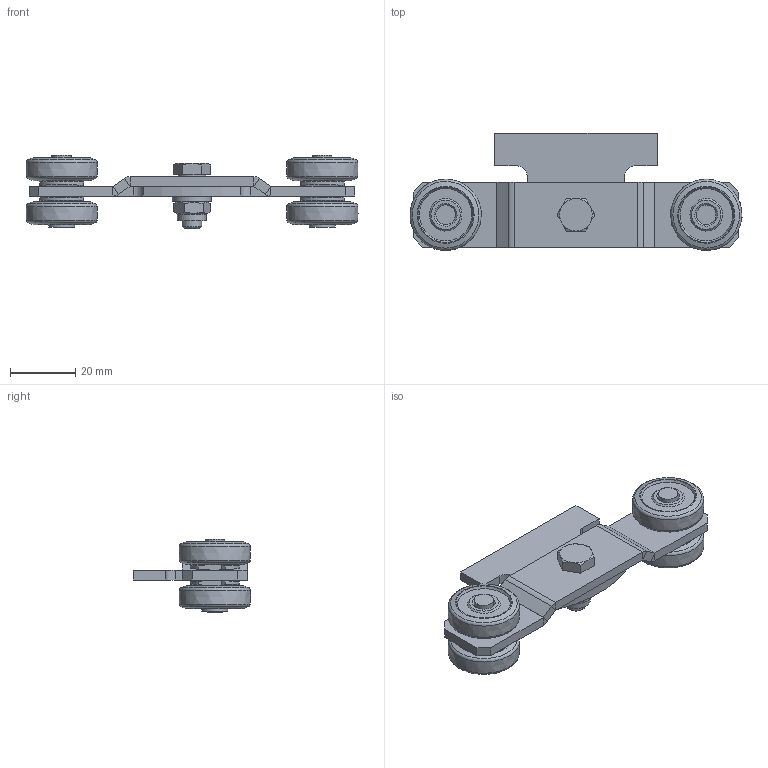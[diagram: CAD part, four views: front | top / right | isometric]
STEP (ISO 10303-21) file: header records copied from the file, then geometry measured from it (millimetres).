
FILE_DESCRIPTION(/* description */ ('Brennteil'),/* implementation_level */ '2;1');
FILE_NAME(/* name */ 'Q:\sge-ma\Produktmanagement-STB\STB\Workspace\TraceParts\Doppelrolle mit Anschweißpendel\010336860.stp',/* time_stamp */ '2018-02-27T11:38:03+01:00',/* author */ ('avschreier'),/* organization */ (''),/* preprocessor_version */ 'ST-DEVELOPER v16.1',/* originating_system */ 'Autodesk Inventor 2016',/* authorisation */ '');
FILE_SCHEMA (('CONFIG_CONTROL_DESIGN'));
Length unit declared in the file: millimetre
Products named in the file (9): 000302094; 337000122; 336290000; 000303234; 000304010; DIN_EN_ISO_4017-M6x16_en; DIN_EN_ISO_7090-6,4_en; DIN_EN_ISO_7040-M6_en; 010336860
Assembly tree (15 placements, depth 2):
  010336860
    000302094
    337000122
    336290000  x4
    000303234  x4
    000304010  x2
    DIN_EN_ISO_4017-M6x16_en
    DIN_EN_ISO_7090-6,4_en
    DIN_EN_ISO_7040-M6_en
Bounding box: 101.91 x 35.98 x 22.5 mm (x, y, z)
Volume: 20938.1 mm3; surface area: 16338.3 mm2
Topology: 15 solids, 15 shells, 247 faces, 541 edges, 340 vertices
Faces by surface type: plane 143, cone 48, cylinder 42, torus 10, bspline 4
Full cylindrical faces by diameter (mm): 4.917 x1, 5.459 x1, 6 x7, 6.1 x5, 6.4 x2, 8 x2, 8.7 x1, 8.9 x1, 12 x1
Entity records: 3929 total; most frequent: CARTESIAN_POINT 713, DIRECTION 668, ORIENTED_EDGE 552, EDGE_CURVE 276, AXIS2_PLACEMENT_3D 256, EDGE_LOOP 195, VERTEX_POINT 187, LINE 156
